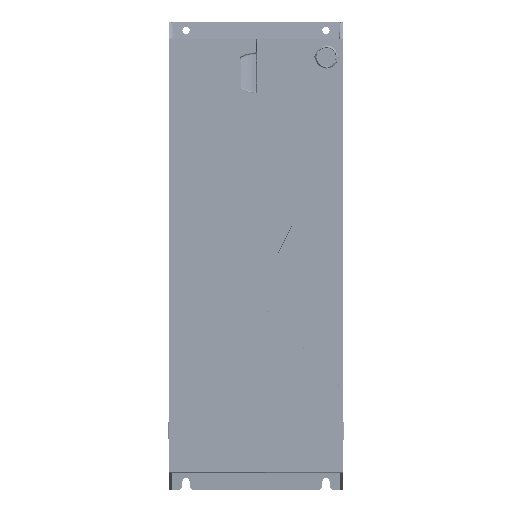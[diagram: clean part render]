
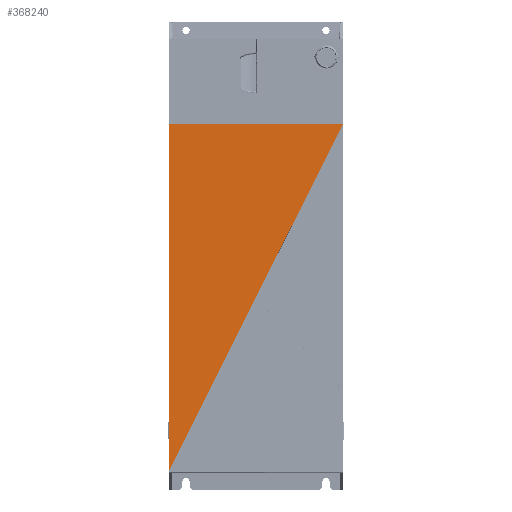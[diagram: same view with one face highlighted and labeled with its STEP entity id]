
A CAD part, top view. The second image highlights one B-rep face of the part: STEP entity #368240.
In plain terms, the highlighted planar face has unit normal (0, 0, 1).
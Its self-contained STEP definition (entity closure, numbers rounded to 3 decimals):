
#345823=CARTESIAN_POINT('',(-72.,108.824,181.5));
#349362=DIRECTION('',(-0.448,-0.894,0.));
#349363=VECTOR('',#349362,321.233);
#349364=CARTESIAN_POINT('',(71.835,108.824,181.5));
#349365=LINE('',#349364,#349363);
#349369=DIRECTION('',(0.,-1.,0.));
#349370=VECTOR('',#349369,287.232);
#349371=CARTESIAN_POINT('',(-72.,108.824,181.5));
#349372=LINE('',#349371,#349370);
#349376=DIRECTION('',(1.,0.,0.));
#349377=VECTOR('',#349376,143.835);
#349378=CARTESIAN_POINT('',(-72.,108.824,181.5));
#349379=LINE('',#349378,#349377);
#352175=CARTESIAN_POINT('',(71.835,108.824,181.5));
#352176=CARTESIAN_POINT('',(-72.,-178.408,181.5));
#352177=VERTEX_POINT('',#352175);
#352178=VERTEX_POINT('',#352176);
#352211=VERTEX_POINT('',#345823);
#368229=CARTESIAN_POINT('',(0.,0.,181.5));
#368230=DIRECTION('',(0.,0.,1.));
#368231=DIRECTION('',(1.,0.,0.));
#368232=AXIS2_PLACEMENT_3D('',#368229,#368230,#368231);
#368233=PLANE('',#368232);
#368234=ORIENTED_EDGE('',*,*,#368213,.T.);
#368236=ORIENTED_EDGE('',*,*,#368235,.F.);
#368237=ORIENTED_EDGE('',*,*,#363789,.T.);
#368238=EDGE_LOOP('',(#368234,#368236,#368237));
#368239=FACE_OUTER_BOUND('',#368238,.F.);
#368240=ADVANCED_FACE('',(#368239),#368233,.T.);
#363789=EDGE_CURVE('',#352211,#352177,#349379,.T.);
#368213=EDGE_CURVE('',#352177,#352178,#349365,.T.);
#368235=EDGE_CURVE('',#352211,#352178,#349372,.T.);
